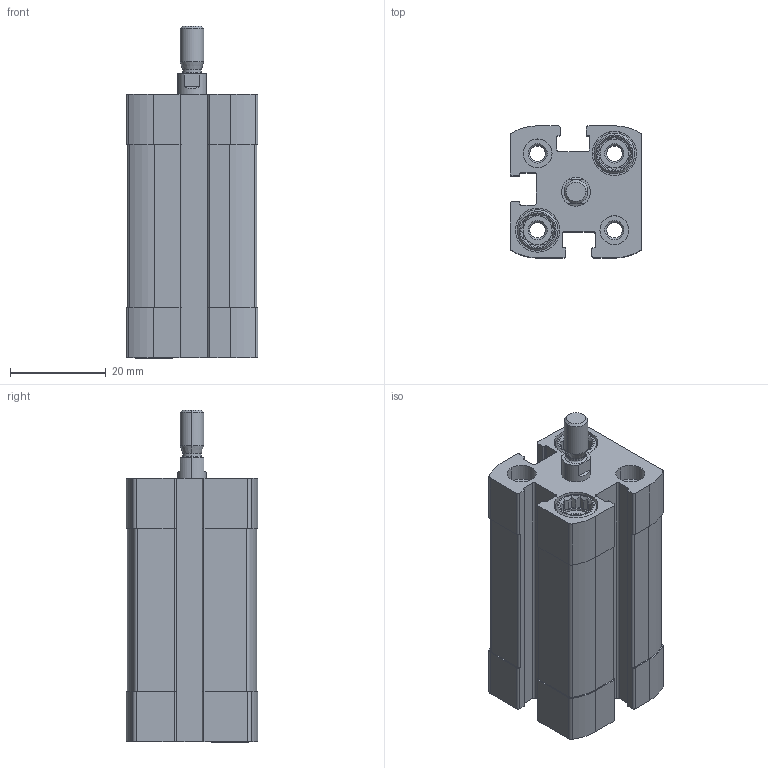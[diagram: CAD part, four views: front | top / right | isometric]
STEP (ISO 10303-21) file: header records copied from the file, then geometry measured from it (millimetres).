
FILE_DESCRIPTION (( 'STEP AP203' ), '1' );
FILE_NAME ('CCN12-20M.STEP', '2017-03-24T10:57:03', ( '' ), ( '' ), 'SwSTEP 2.0', 'SolidWorks 2016', '' );
FILE_SCHEMA (( 'CONFIG_CONTROL_DESIGN' ));
Length unit declared in the file: millimetre
Products named in the file (3): CCN12-20M---(Z); CCN12-20M_(KS); CCN12-20M
Assembly tree (2 placements, depth 2):
  CCN12-20M
    CCN12-20M---(Z)
    CCN12-20M_(KS)
Bounding box: 27.5 x 27.5 x 69.2 mm (x, y, z)
Volume: 29593.4 mm3; surface area: 15818.4 mm2
Topology: 2 solids, 2 shells, 365 faces, 944 edges, 618 vertices
Faces by surface type: plane 187, cylinder 134, cone 40, bspline 4
Entity records: 11633 total; most frequent: CARTESIAN_POINT 2292, DIRECTION 1902, ORIENTED_EDGE 1888, EDGE_CURVE 944, AXIS2_PLACEMENT_3D 692, VERTEX_POINT 618, VECTOR 518, LINE 518
